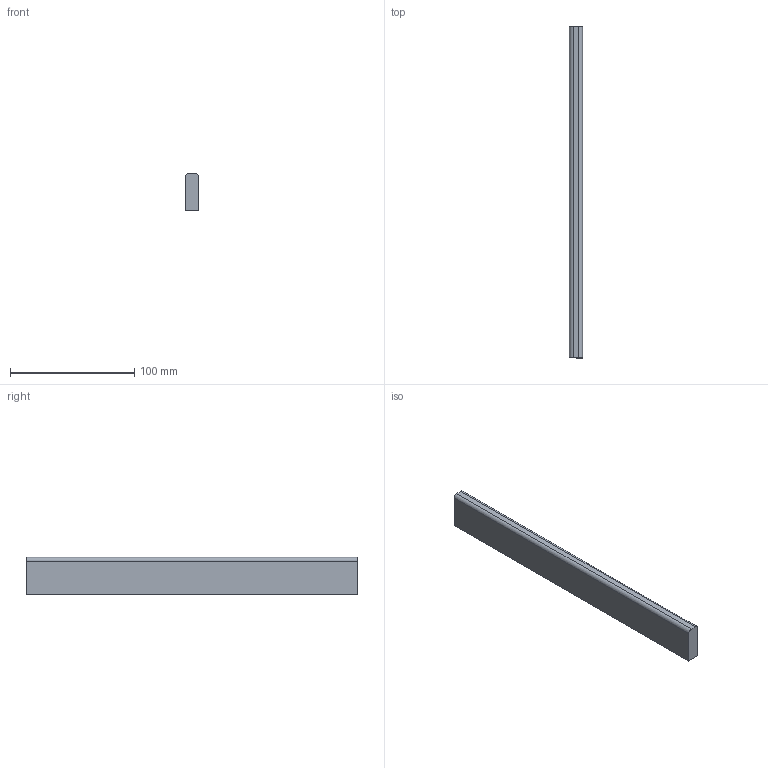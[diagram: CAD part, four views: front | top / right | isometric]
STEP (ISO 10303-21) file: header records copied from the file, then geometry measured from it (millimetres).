
FILE_DESCRIPTION (( 'STEP AP214' ), '1' );
FILE_NAME ('_Seitenreling_SP60701200_RL267,1.step', '2010-09-06T14:51:56', ( 'grass' ), ( '' ), 'SwSTEP 2.0', 'SolidWorks 2010', '' );
FILE_SCHEMA (( 'AUTOMOTIVE_DESIGN' ));
Length unit declared in the file: millimetre
Products named in the file (1): _Seitenreling_SP60701200_RL267,1
Bounding box: 10.5 x 267.1 x 30 mm (x, y, z)
Volume: 83104.7 mm3; surface area: 21569.5 mm2
Topology: 1 solids, 1 shells, 8 faces, 18 edges, 12 vertices
Faces by surface type: plane 6, cylinder 2
Entity records: 260 total; most frequent: DIRECTION 40, CARTESIAN_POINT 39, ORIENTED_EDGE 36, EDGE_CURVE 18, VECTOR 14, LINE 14, AXIS2_PLACEMENT_3D 13, VERTEX_POINT 12
